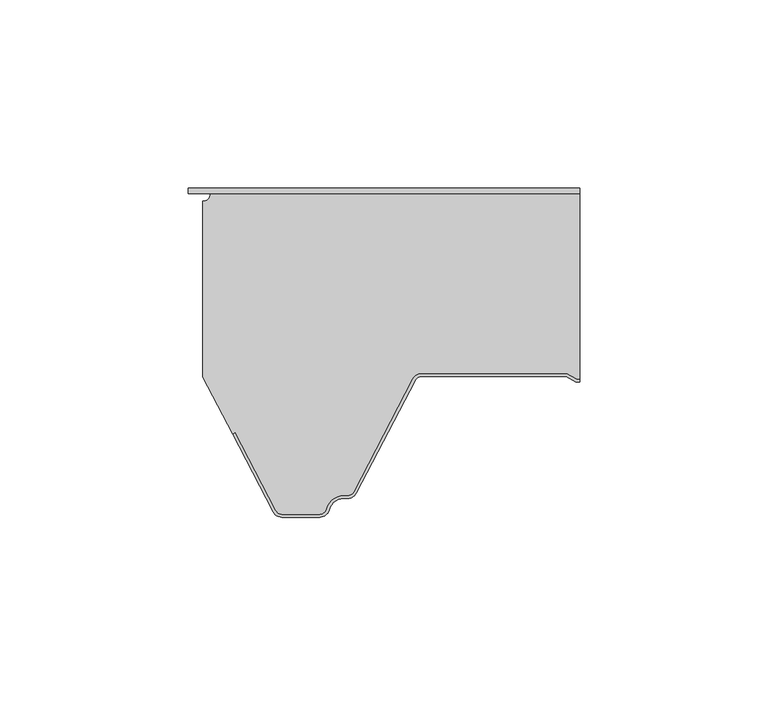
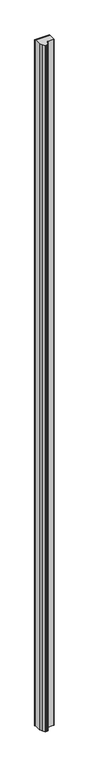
"""IFC4 building model written with IfcOpenShell, lengths in millimetres: plate geometry, Paneles-Sándwich-Madera_PALDR-AC_Curtain-Panel : PALDR AC 50/15."""

from ifc_helpers import new_model, si_unit, frame, origin, origin_with_axes, place, context, project, spatial, polyline, circle_curve, outline, extrude, source, transform, mapped, element, save
from ifc_brep_helpers import plane_surface, cylinder_surface, revolved_surface, advanced_brep


def plate_1189f156(model_context):
    return source(origin(), model_context, "Body", "SolidModel", [
        extrude(outline(polyline([(-53.88, -1.5), (-53.88, 0.0), (50.0, 0.0), (50.0, -1.5), (-53.88, -1.5)])), origin_with_axes(), (0.0, 0.0, 1.0), 5000.0),
        advanced_brep(
        [(-30.6207387, -85.6314818, 0.0), (-41.4414179, -64.855778, 0.0), (-42.1509492, -65.2253256, 0.0), (-50.0, -50.1551481, 0.0), (-50.0, -3.45, 0.0), (-48.05, -1.5, 0.0), (50.0, -1.5, 0.0), (50.0, -50.7, 0.0), (49.2107961, -50.7, 0.0), (46.6127185, -49.2, 0.0), (8.090871, -49.2, 0.0), (5.6075115, -50.7065836, 0.0), (-9.9783733, -80.6314825, 0.0), (-11.574819, -81.6, 0.0), (-12.6272901, -81.6, 0.0), (-17.2841077, -85.2363636, 0.0), (-19.030414, -86.5999997, 0.0), (-29.024293, -86.5999997, 0.0), (-30.6207383, -85.6314813, 5000.0), (-29.024293, -86.5999997, 5000.0), (-19.030414, -86.5999997, 5000.0), (-17.2841077, -85.2363636, 5000.0), (-12.6272901, -81.6, 5000.0), (-11.574819, -81.6, 5000.0), (-9.9783737, -80.631482, 5000.0), (5.6075107, -50.7065835, 5000.0), (8.090871, -49.2, 5000.0), (46.6127185, -49.2, 5000.0), (49.2107961, -50.7, 5000.0), (50.0, -50.7, 5000.0), (50.0, -1.5, 5000.0), (-48.05, -1.5, 5000.0), (-50.0, -3.45, 5000.0), (-50.0, -50.1551481, 5000.0), (-42.1509492, -65.2253256, 5000.0), (-41.4414179, -64.855778, 5000.0)],
        [
            (0, 1),
            (1, 2),
            (2, 3),
            (3, 4),
            (4, 5, circle_curve(frame((-50.0, -1.5, 0.0), z_axis=(0.0, 0.0, 1.0), x_axis=(-1.0, 0.0, 0.0)), 1.95)),
            (5, 6),
            (6, 7),
            (7, 8),
            (8, 9),
            (9, 10),
            (10, 11, circle_curve(frame((8.090871, -52.0, 0.0), z_axis=(0.0, 0.0, 1.0), x_axis=(-1.0, 0.0, 0.0)), 2.8)),
            (11, 12),
            (12, 13, circle_curve(frame((-11.574819, -79.8, 0.0), z_axis=(0.0, 0.0, -1.0), x_axis=(-1.0, 0.0, 0.0)), 1.8)),
            (13, 14),
            (14, 15, circle_curve(frame((-12.6272901, -86.4, 0.0), z_axis=(0.0, 0.0, 1.0), x_axis=(-1.0, 0.0, 0.0)), 4.8)),
            (15, 16, circle_curve(frame((-19.030414, -84.8, 0.0), z_axis=(0.0, 0.0, -1.0), x_axis=(-1.0, 0.0, 0.0)), 1.7999997)),
            (16, 17),
            (17, 0, circle_curve(frame((-29.024293, -84.8, 0.0), z_axis=(0.0, 0.0, -1.0), x_axis=(-1.0, 0.0, 0.0)), 1.7999997)),
            (18, 19, circle_curve(frame((-29.024293, -84.8, 5000.0), z_axis=(0.0, 0.0, 1.0), x_axis=(-1.0, 0.0, 0.0)), 1.7999997)),
            (19, 20),
            (20, 21, circle_curve(frame((-19.030414, -84.8, 5000.0), z_axis=(0.0, 0.0, 1.0), x_axis=(-1.0, 0.0, 0.0)), 1.7999997)),
            (21, 22, circle_curve(frame((-12.6272901, -86.4, 5000.0), z_axis=(0.0, 0.0, -1.0), x_axis=(-1.0, 0.0, 0.0)), 4.8)),
            (22, 23),
            (23, 24, circle_curve(frame((-11.574819, -79.8, 5000.0), z_axis=(0.0, 0.0, 1.0), x_axis=(-1.0, 0.0, 0.0)), 1.8)),
            (24, 25),
            (25, 26, circle_curve(frame((8.090871, -52.0, 5000.0), z_axis=(0.0, 0.0, -1.0), x_axis=(-1.0, 0.0, 0.0)), 2.8)),
            (26, 27),
            (27, 28),
            (28, 29),
            (29, 30),
            (30, 31),
            (31, 32, circle_curve(frame((-50.0, -1.5, 5000.0), z_axis=(0.0, 0.0, -1.0), x_axis=(-1.0, 0.0, 0.0)), 1.95)),
            (32, 33),
            (33, 34),
            (34, 35),
            (35, 18),
            (0, 18),
            (35, 1),
            (34, 2),
            (33, 3),
            (32, 4),
            (5, 31),
            (30, 6),
            (28, 8),
            (7, 29),
            (27, 9),
            (26, 10),
            (25, 11),
            (24, 12),
            (23, 13),
            (22, 14),
            (21, 15),
            (20, 16),
            (19, 17),
        ],
        [
            plane_surface(frame((-50.0, 0.0, 0.0), z_axis=(0.0, 0.0, -1.0), x_axis=(0.0, 1.0, 0.0))),
            plane_surface(frame((-50.0, 0.0, 5000.0), z_axis=(0.0, 0.0, 1.0), x_axis=(0.0, 1.0, 0.0))),
            plane_surface(frame((-30.6207387, -85.6314818, 0.0), z_axis=(-0.8869140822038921, -0.4619344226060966, 0.0), x_axis=(0.0, 0.0, 1.0))),
            plane_surface(frame((-41.4414179, -64.855778, 0.0), z_axis=(0.4619344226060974, -0.8869140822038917, 0.0), x_axis=(0.0, 0.0, 1.0))),
            plane_surface(frame((-42.1509492, -65.2253256, 0.0), z_axis=(-0.8869140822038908, -0.4619344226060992, 0.0), x_axis=(0.0, 0.0, 1.0))),
            plane_surface(frame((-50.0, -50.1551481, 0.0), z_axis=(-1.0, 0.0, 0.0), x_axis=(0.0, 0.0, 1.0))),
            plane_surface(frame((-48.05, -1.5, 0.0), z_axis=(0.0, 1.0, 0.0), x_axis=(0.0, 0.0, 1.0))),
            plane_surface(frame((81.5859248, -50.7, 0.0), z_axis=(0.0, -1.0, 0.0), x_axis=(0.0, 0.0, 1.0))),
            plane_surface(frame((49.2107961, -50.7, 0.0), z_axis=(-0.4999997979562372, -0.866025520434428, 0.0), x_axis=(0.0, 0.0, 1.0))),
            plane_surface(frame((46.6127185, -49.2, 0.0), z_axis=(0.0, -1.0, 0.0), x_axis=(0.0, 0.0, 1.0))),
            revolved_surface(polyline([(5.290871, -52.0, 5000.0), (5.290871, -52.0, 0.0)]), (8.090871, -52.0, 0.0), (0.0, 0.0, 1.0)),
            plane_surface(frame((5.6075107, -50.7065835, 0.0), z_axis=(0.8869140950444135, -0.46193439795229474, 0.0), x_axis=(0.0, 0.0, 1.0))),
            cylinder_surface(frame((-11.574819, -79.8, 0.0), z_axis=(0.0, 0.0, -1.0), x_axis=(-1.0, 0.0, 0.0)), 1.8),
            plane_surface(frame((-11.574819, -81.6, 0.0), z_axis=(0.0, -1.0, 0.0), x_axis=(0.0, 0.0, 1.0))),
            revolved_surface(polyline([(-17.4272901, -86.4, 5000.0), (-17.4272901, -86.4, 0.0)]), (-12.6272901, -86.4, 0.0), (0.0, 0.0, 1.0)),
            cylinder_surface(frame((-19.030414, -84.8, 0.0), z_axis=(0.0, 0.0, -1.0), x_axis=(-1.0, 0.0, 0.0)), 1.7999997),
            plane_surface(frame((-19.030414, -86.5999997, 0.0), z_axis=(0.0, -1.0, 0.0), x_axis=(0.0, 0.0, 1.0))),
            cylinder_surface(frame((-29.024293, -84.8, 0.0), z_axis=(0.0, 0.0, -1.0), x_axis=(-1.0, 0.0, 0.0)), 1.7999997),
            revolved_surface(polyline([(-51.95, -1.5, 5000.0), (-51.95, -1.5, 0.0)]), (-50.0, -1.5, 0.0), (0.0, 0.0, 1.0)),
            plane_surface(frame((50.0, 0.0, 5000.0), z_axis=(1.0, 0.0, 0.0), x_axis=(0.0, 0.0, -1.0))),
        ],
        [
            (0, [[1, 2, 3, 4, 5, 6, 7, 8, 9, 10, 11, 12, 13, 14, 15, 16, 17, 18]]),
            (1, [[19, 20, 21, 22, 23, 24, 25, 26, 27, 28, 29, 30, 31, 32, 33, 34, 35, 36]]),
            (2, [[-1, 37, -36, 38]]),
            (3, [[-2, -38, -35, 39]]),
            (4, [[-3, -39, -34, 40]]),
            (5, [[-4, -40, -33, 41]]),
            (6, [[42, -31, 43, -6]]),
            (7, [[44, -8, 45, -29]]),
            (8, [[-9, -44, -28, 46]]),
            (9, [[-10, -46, -27, 47]]),
            (10, [[-11, -47, -26, 48]]),
            (11, [[-12, -48, -25, 49]]),
            (12, [[-13, -49, -24, 50]]),
            (13, [[-14, -50, -23, 51]]),
            (14, [[-15, -51, -22, 52]]),
            (15, [[-16, -52, -21, 53]]),
            (16, [[-17, -53, -20, 54]]),
            (17, [[-18, -54, -19, -37]]),
            (18, [[-5, -41, -32, -42]]),
            (19, [[-7, -43, -30, -45]]),
        ],
    ),
        advanced_brep(
        [(49.2107962, -50.7, 5000.0), (46.6127186, -49.2, 5000.0), (8.090871, -49.2, 5000.0), (5.6075116, -50.7065836, 5000.0), (-9.9783733, -80.6314825, 5000.0), (-11.574819, -81.6, 5000.0), (-12.62729, -81.6, 5000.0), (-17.2841076, -85.2363636, 5000.0), (-19.030414, -86.6, 5000.0), (-29.024293, -86.6, 5000.0), (-30.6207383, -85.631482, 5000.0), (-41.4404688, -64.8576004, 5000.0), (-42.15, -65.227148, 5000.0), (-31.33027, -86.00103, 5000.0), (-29.024293, -87.4, 5000.0), (-19.030414, -87.4, 5000.0), (-16.5079711, -85.4303031, 5000.0), (-12.62729, -82.4, 5000.0), (-11.574819, -82.4, 5000.0), (-9.2688424, -81.0010295, 5000.0), (6.317042, -51.076131, 5000.0), (8.090871, -50.0, 5000.0), (46.3983593, -50.0, 5000.0), (48.9964369, -51.5, 5000.0), (50.0, -51.5, 5000.0), (50.0, -50.7, 5000.0), (48.9964369, -51.5, 0.0), (46.3983593, -50.0, 0.0), (8.090871, -50.0, 0.0), (6.3170428, -51.0761312, 0.0), (-9.268842, -81.00103, 0.0), (-11.574819, -82.4, 0.0), (-12.62729, -82.4, 0.0), (-16.5079713, -85.430303, 0.0), (-19.030414, -87.4, 0.0), (-29.024293, -87.4, 0.0), (-31.3302696, -86.0010295, 0.0), (-42.15, -65.227148, 0.0), (-41.4404688, -64.8576004, 0.0), (-30.6207387, -85.6314825, 0.0), (-29.024293, -86.6, 0.0), (-19.030414, -86.6, 0.0), (-17.2841074, -85.2363637, 0.0), (-12.62729, -81.6, 0.0), (-11.574819, -81.6, 0.0), (-9.9783737, -80.631482, 0.0), (5.6075107, -50.7065835, 0.0), (8.090871, -49.2, 0.0), (46.6127186, -49.2, 0.0), (49.2107962, -50.7, 0.0), (50.0, -50.7, 0.0), (50.0, -51.5, 0.0)],
        [
            (0, 1),
            (1, 2),
            (2, 3, circle_curve(frame((8.090871, -52.0, 5000.0), z_axis=(0.0, 0.0, 1.0), x_axis=(1.0, 0.0, 0.0)), 2.8)),
            (3, 4),
            (4, 5, circle_curve(frame((-11.574819, -79.8, 5000.0), z_axis=(0.0, 0.0, -1.0), x_axis=(1.0, 0.0, 0.0)), 1.8)),
            (5, 6),
            (6, 7, circle_curve(frame((-12.62729, -86.4, 5000.0), z_axis=(0.0, 0.0, 1.0), x_axis=(1.0, 0.0, 0.0)), 4.8)),
            (7, 8, circle_curve(frame((-19.030414, -84.8, 5000.0), z_axis=(0.0, 0.0, -1.0), x_axis=(1.0, 0.0, 0.0)), 1.8)),
            (8, 9),
            (9, 10, circle_curve(frame((-29.024293, -84.8, 5000.0), z_axis=(0.0, 0.0, -1.0), x_axis=(1.0, 0.0, 0.0)), 1.8)),
            (10, 11),
            (11, 12),
            (12, 13),
            (13, 14, circle_curve(frame((-29.024293, -84.8, 5000.0), z_axis=(0.0, 0.0, 1.0), x_axis=(1.0, 0.0, 0.0)), 2.6)),
            (14, 15),
            (15, 16, circle_curve(frame((-19.030414, -84.8, 5000.0), z_axis=(0.0, 0.0, 1.0), x_axis=(1.0, 0.0, 0.0)), 2.6)),
            (16, 17, circle_curve(frame((-12.62729, -86.4, 5000.0), z_axis=(0.0, 0.0, -1.0), x_axis=(1.0, 0.0, 0.0)), 4.0)),
            (17, 18),
            (18, 19, circle_curve(frame((-11.574819, -79.8, 5000.0), z_axis=(0.0, 0.0, 1.0), x_axis=(1.0, 0.0, 0.0)), 2.6)),
            (19, 20),
            (20, 21, circle_curve(frame((8.090871, -52.0, 5000.0), z_axis=(0.0, 0.0, -1.0), x_axis=(1.0, 0.0, 0.0)), 2.0)),
            (21, 22),
            (22, 23),
            (23, 24),
            (24, 25),
            (25, 0),
            (26, 27),
            (27, 28),
            (28, 29, circle_curve(frame((8.090871, -52.0, 0.0), z_axis=(0.0, 0.0, 1.0), x_axis=(1.0, 0.0, 0.0)), 2.0)),
            (29, 30),
            (30, 31, circle_curve(frame((-11.574819, -79.8, 0.0), z_axis=(0.0, 0.0, -1.0), x_axis=(1.0, 0.0, 0.0)), 2.6)),
            (31, 32),
            (32, 33, circle_curve(frame((-12.62729, -86.4, 0.0), z_axis=(0.0, 0.0, 1.0), x_axis=(1.0, 0.0, 0.0)), 4.0)),
            (33, 34, circle_curve(frame((-19.030414, -84.8, 0.0), z_axis=(0.0, 0.0, -1.0), x_axis=(1.0, 0.0, 0.0)), 2.6)),
            (34, 35),
            (35, 36, circle_curve(frame((-29.024293, -84.8, 0.0), z_axis=(0.0, 0.0, -1.0), x_axis=(1.0, 0.0, 0.0)), 2.6)),
            (36, 37),
            (37, 38),
            (38, 39),
            (39, 40, circle_curve(frame((-29.024293, -84.8, 0.0), z_axis=(0.0, 0.0, 1.0), x_axis=(1.0, 0.0, 0.0)), 1.8)),
            (40, 41),
            (41, 42, circle_curve(frame((-19.030414, -84.8, 0.0), z_axis=(0.0, 0.0, 1.0), x_axis=(1.0, 0.0, 0.0)), 1.8)),
            (42, 43, circle_curve(frame((-12.62729, -86.4, 0.0), z_axis=(0.0, 0.0, -1.0), x_axis=(1.0, 0.0, 0.0)), 4.8)),
            (43, 44),
            (44, 45, circle_curve(frame((-11.574819, -79.8, 0.0), z_axis=(0.0, 0.0, 1.0), x_axis=(1.0, 0.0, 0.0)), 1.8)),
            (45, 46),
            (46, 47, circle_curve(frame((8.090871, -52.0, 0.0), z_axis=(0.0, 0.0, -1.0), x_axis=(1.0, 0.0, 0.0)), 2.8)),
            (47, 48),
            (48, 49),
            (49, 50),
            (50, 51),
            (51, 26),
            (49, 0),
            (25, 50),
            (48, 1),
            (47, 2),
            (46, 3),
            (45, 4),
            (44, 5),
            (43, 6),
            (42, 7),
            (41, 8),
            (40, 9),
            (39, 10),
            (38, 11),
            (37, 12),
            (36, 13),
            (35, 14),
            (34, 15),
            (33, 16),
            (32, 17),
            (31, 18),
            (30, 19),
            (29, 20),
            (28, 21),
            (27, 22),
            (26, 23),
            (51, 24),
        ],
        [
            plane_surface(frame((-50.0, -50.0, 5000.0), z_axis=(0.0, 0.0, 1.0), x_axis=(0.0, 1.0, 0.0))),
            plane_surface(frame((-50.0, -50.0, 0.0), z_axis=(0.0, 0.0, -1.0), x_axis=(0.0, 1.0, 0.0))),
            plane_surface(frame((81.5859248, -50.7, 5000.0), z_axis=(0.0, 1.0, 0.0), x_axis=(0.0, 0.0, -1.0))),
            plane_surface(frame((49.2107962, -50.7, 5000.0), z_axis=(0.4999997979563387, 0.8660255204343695, 0.0), x_axis=(0.0, 0.0, -1.0))),
            plane_surface(frame((46.6127186, -49.2, 5000.0), z_axis=(0.0, 1.0, 0.0), x_axis=(0.0, 0.0, -1.0))),
            cylinder_surface(frame((8.090871, -52.0, 5000.0), z_axis=(0.0, 0.0, 1.0), x_axis=(1.0, 0.0, 0.0)), 2.8),
            plane_surface(frame((5.6075107, -50.7065835, 5000.0), z_axis=(-0.8869140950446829, 0.4619343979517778, 0.0), x_axis=(0.0, 0.0, -1.0))),
            revolved_surface(polyline([(-9.774818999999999, -79.8, 0.0), (-9.774818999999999, -79.8, 5000.0)]), (-11.574819, -79.8, 5000.0), (0.0, 0.0, -1.0)),
            plane_surface(frame((-11.574819, -81.6, 5000.0), z_axis=(0.0, 1.0, 0.0), x_axis=(0.0, 0.0, -1.0))),
            cylinder_surface(frame((-12.62729, -86.4, 5000.0), z_axis=(0.0, 0.0, 1.0), x_axis=(1.0, 0.0, 0.0)), 4.8),
            revolved_surface(polyline([(-17.230414, -84.8, 0.0), (-17.230414, -84.8, 5000.0)]), (-19.030414, -84.8, 5000.0), (0.0, 0.0, -1.0)),
            plane_surface(frame((-19.030414, -86.6, 5000.0), z_axis=(0.0, 1.0, 0.0), x_axis=(0.0, 0.0, -1.0))),
            revolved_surface(polyline([(-27.224293, -84.8, 0.0), (-27.224293, -84.8, 5000.0)]), (-29.024293, -84.8, 5000.0), (0.0, 0.0, -1.0)),
            plane_surface(frame((-30.6207387, -85.6314825, 5000.0), z_axis=(0.8869140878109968, 0.46193441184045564, 0.0), x_axis=(0.0, 0.0, -1.0))),
            plane_surface(frame((-41.4404688, -64.8576004, 5000.0), z_axis=(-0.46193450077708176, 0.8869140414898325, 0.0), x_axis=(0.0, 0.0, -1.0))),
            plane_surface(frame((-42.15, -65.227148, 5000.0), z_axis=(-0.8869140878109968, -0.46193441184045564, 0.0), x_axis=(0.0, 0.0, -1.0))),
            cylinder_surface(frame((-29.024293, -84.8, 5000.0), z_axis=(0.0, 0.0, 1.0), x_axis=(1.0, 0.0, 0.0)), 2.6),
            plane_surface(frame((-29.024293, -87.4, 5000.0), z_axis=(0.0, -1.0, 0.0), x_axis=(0.0, 0.0, -1.0))),
            cylinder_surface(frame((-19.030414, -84.8, 5000.0), z_axis=(0.0, 0.0, 1.0), x_axis=(1.0, 0.0, 0.0)), 2.6),
            revolved_surface(polyline([(-8.62729, -86.4, 0.0), (-8.62729, -86.4, 5000.0)]), (-12.62729, -86.4, 5000.0), (0.0, 0.0, -1.0)),
            plane_surface(frame((-12.62729, -82.4, 5000.0), z_axis=(0.0, -1.0, 0.0), x_axis=(0.0, 0.0, -1.0))),
            cylinder_surface(frame((-11.574819, -79.8, 5000.0), z_axis=(0.0, 0.0, 1.0), x_axis=(1.0, 0.0, 0.0)), 2.6),
            plane_surface(frame((-9.268842, -81.00103, 5000.0), z_axis=(0.8869140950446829, -0.4619343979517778, 0.0), x_axis=(0.0, 0.0, -1.0))),
            revolved_surface(polyline([(10.090871, -52.0, 0.0), (10.090871, -52.0, 5000.0)]), (8.090871, -52.0, 5000.0), (0.0, 0.0, -1.0)),
            plane_surface(frame((8.090871, -50.0, 5000.0), z_axis=(0.0, -1.0, 0.0), x_axis=(0.0, 0.0, -1.0))),
            plane_surface(frame((46.3983593, -50.0, 5000.0), z_axis=(-0.4999997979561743, -0.8660255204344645, 0.0), x_axis=(0.0, 0.0, -1.0))),
            plane_surface(frame((48.9964369, -51.5, 5000.0), z_axis=(0.0, -1.0, 0.0), x_axis=(0.0, 0.0, -1.0))),
            plane_surface(frame((50.0, 0.0, 5000.0), z_axis=(1.0, 0.0, 0.0), x_axis=(0.0, 0.0, -1.0))),
        ],
        [
            (0, [[1, 2, 3, 4, 5, 6, 7, 8, 9, 10, 11, 12, 13, 14, 15, 16, 17, 18, 19, 20, 21, 22, 23, 24, 25, 26]]),
            (1, [[27, 28, 29, 30, 31, 32, 33, 34, 35, 36, 37, 38, 39, 40, 41, 42, 43, 44, 45, 46, 47, 48, 49, 50, 51, 52]]),
            (2, [[53, -26, 54, -50]]),
            (3, [[-1, -53, -49, 55]]),
            (4, [[-2, -55, -48, 56]]),
            (5, [[-3, -56, -47, 57]]),
            (6, [[-4, -57, -46, 58]]),
            (7, [[-5, -58, -45, 59]]),
            (8, [[-6, -59, -44, 60]]),
            (9, [[-7, -60, -43, 61]]),
            (10, [[-8, -61, -42, 62]]),
            (11, [[-9, -62, -41, 63]]),
            (12, [[-10, -63, -40, 64]]),
            (13, [[-11, -64, -39, 65]]),
            (14, [[-12, -65, -38, 66]]),
            (15, [[-13, -66, -37, 67]]),
            (16, [[-14, -67, -36, 68]]),
            (17, [[-15, -68, -35, 69]]),
            (18, [[-16, -69, -34, 70]]),
            (19, [[-17, -70, -33, 71]]),
            (20, [[-18, -71, -32, 72]]),
            (21, [[-19, -72, -31, 73]]),
            (22, [[-20, -73, -30, 74]]),
            (23, [[-21, -74, -29, 75]]),
            (24, [[-22, -75, -28, 76]]),
            (25, [[-23, -76, -27, 77]]),
            (26, [[-77, -52, 78, -24]]),
            (27, [[-25, -78, -51, -54]]),
        ],
    ),
    ])


if __name__ == "__main__":
    model = new_model("IFC4")
    model_context = context("Model", 3, world=origin())
    ifc_project = project(units=[si_unit("LENGTHUNIT", "METRE", prefix="MILLI")], contexts=[model_context])
    site = spatial("IfcSite", under=ifc_project)
    building = spatial("IfcBuilding", under=site)
    placement = place(None, origin())
    plate_shape = plate_1189f156(model_context)
    element("IfcPlate", 1, ObjectType="Paneles-Sándwich-Madera_PALDR-AC_Curtain-Panel : PALDR AC 50/15", at=placement, inside=building, context=model_context, shape_type="MappedRepresentation", body=[
        mapped(plate_shape, transform((0.0, 0.0, 0.0), x_axis=(1.0, 0.0, 0.0), y_axis=(0.0, 1.0, 0.0), z_axis=(0.0, 0.0, 1.0))),
    ])
    save(model, "model.ifc")
